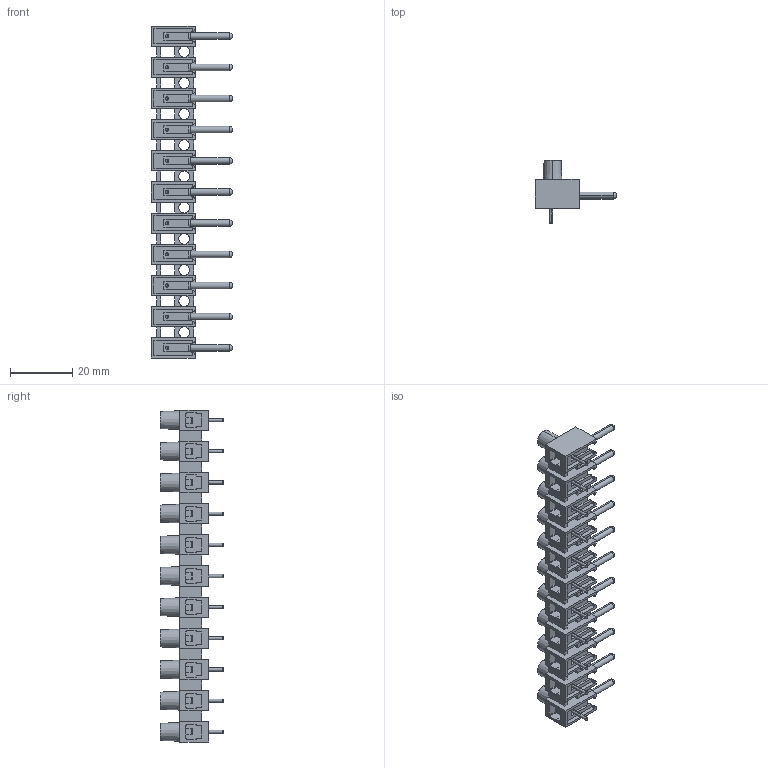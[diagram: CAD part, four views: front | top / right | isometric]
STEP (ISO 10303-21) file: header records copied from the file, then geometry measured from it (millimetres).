
FILE_DESCRIPTION (( 'STEP AP214' ), '1' );
FILE_NAME ('322-SVG-DS-11.STEP', '2007-10-23T01:03:25', ( ' ' ), ( '' ), 'SwSTEP 2.0', 'SolidWorks 2007', '' );
FILE_SCHEMA (( 'AUTOMOTIVE_DESIGN' ));
Length unit declared in the file: millimetre
Products named in the file (1): 322-SVG-DS-11
Bounding box: 26 x 20.3 x 106.5 mm (x, y, z)
Volume: 9774.5 mm3; surface area: 12202.7 mm2
Topology: 1 solids, 1 shells, 1158 faces, 3338 edges, 2162 vertices
Faces by surface type: plane 676, cylinder 317, cone 99, bspline 66
Entity records: 53202 total; most frequent: CARTESIAN_POINT 9829, ORIENTED_EDGE 6632, DIRECTION 6191, EDGE_CURVE 3316, VECTOR 2183, LINE 2183, VERTEX_POINT 2162, AXIS2_PLACEMENT_3D 2004
